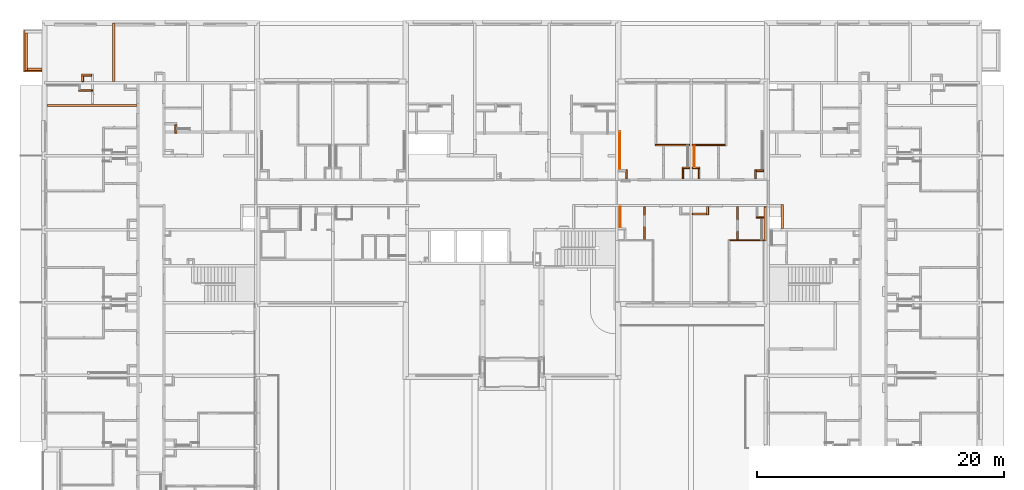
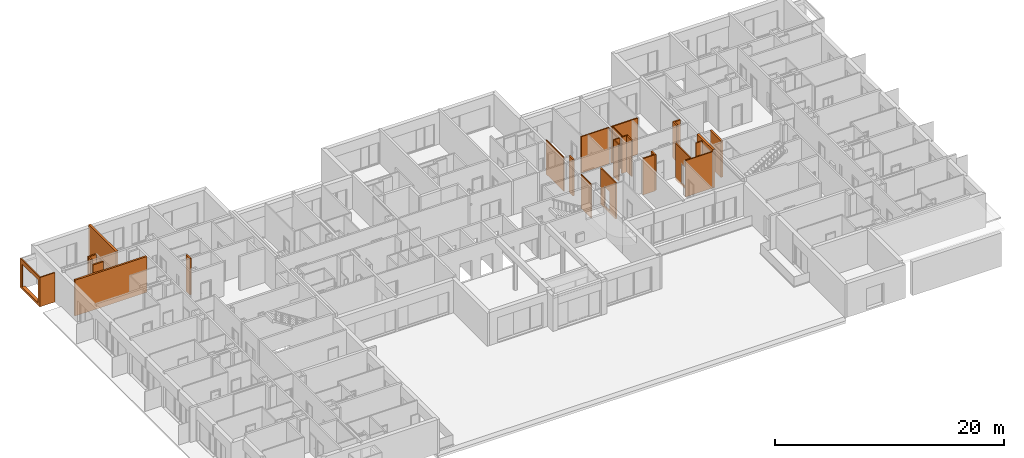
# One storey, part 40 of 46: 28 proxies, 3 openings.
"""IFC2X3 building model written with IfcOpenShell, lengths in millimetres."""

from ifc_helpers import new_model, entity, si_unit, converted_unit, derived_unit, money_unit, direction, frame, origin_with_axes, origin_2d_with_axis, place, context, subcontext, project, spatial, rectangle, extrude, faceted_brep, material, material_list, type_object, element, save


model = new_model("IFC2X3")

# Units and contexts
model_context = context("Model", 3, precision=0.01, world=origin_with_axes(), true_north=direction((0.34421633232, 0.938890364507)))
body_context = subcontext(model_context, "Body", "Model", "MODEL_VIEW")
ifc_project = project(units=[si_unit("LENGTHUNIT", "METRE", prefix="MILLI"), si_unit("AREAUNIT", "SQUARE_METRE"), si_unit("VOLUMEUNIT", "CUBIC_METRE"), converted_unit("PLANEANGLEUNIT", "DEGREE", entity("IfcPlaneAngleMeasure", 0.0174532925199), si_unit("PLANEANGLEUNIT", "RADIAN"), dimensions=[0, 0, 0, 0, 0, 0, 0]), si_unit("SOLIDANGLEUNIT", "STERADIAN"), money_unit("USD"), converted_unit("TIMEUNIT", "Year", entity("IfcTimeMeasure", 31556926.0), si_unit("TIMEUNIT", "SECOND"), dimensions=[0, 0, 1, 0, 0, 0, 0]), si_unit("MASSUNIT", "GRAM", prefix="KILO"), si_unit("THERMODYNAMICTEMPERATUREUNIT", "DEGREE_CELSIUS"), si_unit("LUMINOUSINTENSITYUNIT", "LUMEN"), si_unit("ENERGYUNIT", "JOULE", prefix="MEGA"), derived_unit("THERMALCONDUCTANCEUNIT", [(si_unit("POWERUNIT", "WATT"), 1), (si_unit("LENGTHUNIT", "METRE"), -1), (si_unit("THERMODYNAMICTEMPERATUREUNIT", "KELVIN"), -1)]), derived_unit("SPECIFICHEATCAPACITYUNIT", [(si_unit("ENERGYUNIT", "JOULE"), 1), (si_unit("MASSUNIT", "GRAM", prefix="KILO"), -1), (si_unit("THERMODYNAMICTEMPERATUREUNIT", "KELVIN"), -1)]), derived_unit("MASSDENSITYUNIT", [(si_unit("MASSUNIT", "GRAM", prefix="KILO"), 1), (si_unit("VOLUMEUNIT", "CUBIC_METRE"), -1)])], contexts=[model_context])

# Site, building, storey
site_placement = place(None, origin_with_axes())
site = spatial("IfcSite", under=ifc_project, at=site_placement, Name="USTRONIE MORSKIE", CompositionType="ELEMENT")
building_placement = place(site_placement, origin_with_axes())
building = spatial("IfcBuilding", under=site, at=building_placement, Name="Budynek", CompositionType="ELEMENT")
storey_placement = place(building_placement, origin_with_axes())
storey = spatial("IfcBuildingStorey", under=building, at=storey_placement, Name="PARTER", CompositionType="ELEMENT", Elevation=0.0)

# Proxy, opening
ifc_material_1 = material(Name="Beton konstrukcyjny 01")
ifc_material_2 = material(Name="Płyty styropianowe twarde HIGH-PRIORITY")
ifc_material_3 = material(Name="Membrana przeciwwilgociowa")
ifc_material_list_1 = material_list([ifc_material_1, ifc_material_2, ifc_material_3])
building_element_proxy_type_1 = type_object("IfcBuildingElementProxyType", Name="20+10 GARAŻ 310", PredefinedType="NOTDEFINED")
proxy_1_placement = place(storey_placement, frame((348467.920919, 748851.199036, -230.0), z_axis=(0.0, 0.0, 1.0), x_axis=(0.0, -1.0, 0.0)))
proxy_1 = element("IfcBuildingElementProxy", 1, at=proxy_1_placement, inside=storey, type_object=building_element_proxy_type_1, material=ifc_material_list_1, Name="Œciana-006", context=body_context, shape_type="Brep", body=[
    faceted_brep([(100.0, -100.0, 2775.0), (100.0, 100.0, 2775.0), (100.0, 100.0, 0.0), (100.0, -100.0, 0.0), (3160.0, 100.0, 2775.0), (3160.0, -100.0, 2775.0), (3160.0, 100.0, 0.0), (3160.0, -100.0, 0.0)], [[[0, 1, 2, 3]], [[4, 1, 0, 5]], [[1, 4, 6, 2]], [[6, 7, 3, 2]], [[5, 0, 3, 7]], [[4, 5, 7, 6]]]),
    faceted_brep([(3260.0, -200.0, 0.0), (-100.0, -200.0, 0.0), (-100.0, -100.0, 0.0), (3260.0, -100.0, 0.0), (3260.0, -200.0, 3130.0), (-100.0, -200.0, 3130.0), (-100.0, -100.0, 3130.0), (3260.0, -100.0, 3130.0)], [[[0, 1, 2, 3]], [[4, 5, 1, 0]], [[2, 1, 5, 6]], [[3, 2, 6, 7]], [[3, 7, 4, 0]], [[7, 6, 5, 4]]]),
    faceted_brep([(3270.0, -210.0, 0.0), (-200.0, -210.0, 0.0), (-200.0, -200.0, 0.0), (3270.0, -200.0, 0.0), (3270.0, -210.0, 3130.0), (-200.0, -210.0, 3130.0), (-200.0, -200.0, 3130.0), (3270.0, -200.0, 3130.0)], [[[0, 1, 2, 3]], [[4, 5, 1, 0]], [[2, 1, 5, 6]], [[3, 2, 6, 7]], [[3, 7, 4, 0]], [[7, 6, 5, 4]]]),
])
opening_1_placement = place(proxy_1_placement, frame((1530.0, 0.0, 230.0), z_axis=(0.0, 0.0, 1.0), x_axis=(1.0, 0.0, 0.0)))
element("IfcOpeningElement", 2, at=opening_1_placement, cuts=proxy_1, Name="Okna-005", context=body_context, shape_type="SweptSolid", body=[
    extrude(rectangle(XDim=2860.0, YDim=2450.0, at=origin_2d_with_axis()), frame((0.0, 100.0, 1225.0), z_axis=(0.0, -1.0, 0.0), x_axis=(1.0, 0.0, 0.0)), (0.0, 0.0, -1.0), 310.0),
    extrude(rectangle(XDim=2860.0, YDim=2450.0, at=origin_2d_with_axis()), frame((0.0, 100.0, 1225.0), z_axis=(0.0, 1.0, 0.0), x_axis=(1.0, 0.0, 0.0)), (0.0, 0.0, -1.0), 310.0),
])

# Proxies
ifc_material_list_2 = material_list([ifc_material_3, ifc_material_2, ifc_material_1])
proxy_2_placement = place(storey_placement, frame((349767.920919, 745791.199036, -230.0), z_axis=(0.0, 0.0, 1.0), x_axis=(-1.0, 0.0, 0.0)))
element("IfcBuildingElementProxy", 3, at=proxy_2_placement, inside=storey, type_object=building_element_proxy_type_1, material=ifc_material_list_2, Name="Œciana-006", context=body_context, shape_type="Brep", body=[
    faceted_brep([(1500.0, 210.0, 3130.0), (0.0, 210.0, 3130.0), (0.0, 200.0, 3130.0), (1500.0, 200.0, 3130.0), (1500.0, 210.0, 0.0), (0.0, 210.0, 0.0), (0.0, 200.0, 0.0), (1500.0, 200.0, 0.0)], [[[0, 1, 2, 3]], [[4, 5, 1, 0]], [[2, 1, 5, 6]], [[3, 2, 6, 7]], [[3, 7, 4, 0]], [[7, 6, 5, 4]]]),
    faceted_brep([(1400.0, 200.0, 3130.0), (0.0, 200.0, 3130.0), (0.0, 100.0, 3130.0), (1400.0, 100.0, 3130.0), (1400.0, 200.0, 0.0), (0.0, 200.0, 0.0), (0.0, 100.0, 0.0), (1400.0, 100.0, 0.0)], [[[0, 1, 2, 3]], [[4, 5, 1, 0]], [[2, 1, 5, 6]], [[3, 2, 6, 7]], [[3, 7, 4, 0]], [[7, 6, 5, 4]]]),
    faceted_brep([(1200.0, -100.0, 2775.0), (0.0, -100.0, 2775.0), (0.0, -100.0, 0.0), (1200.0, -100.0, 0.0), (0.0, 100.0, 2775.0), (1200.0, 100.0, 2775.0), (0.0, 100.0, 0.0), (1200.0, 100.0, 0.0)], [[[0, 1, 2, 3]], [[4, 1, 0, 5]], [[1, 4, 6, 2]], [[7, 3, 2, 6]], [[5, 0, 3, 7]], [[4, 5, 7, 6]]]),
])
ifc_material_4 = material(Name="Bloczki silikatowe")
building_element_proxy_type_2 = type_object("IfcBuildingElementProxyType", Name="Bloczki silikatowe 120", PredefinedType="NOTDEFINED")
proxy_3_placement = place(storey_placement, frame((399467.913786, 739651.199937, -230.0), z_axis=(0.0, 0.0, 1.0), x_axis=(1.0, 0.0, 0.0)))
element("IfcBuildingElementProxy", 4, at=proxy_3_placement, inside=storey, type_object=building_element_proxy_type_2, material=ifc_material_4, Name="SW-04", context=body_context, shape_type="Brep", body=[
    faceted_brep([(-60.0, -59.9999999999, 3870.0), (2750.00713284, -59.9999999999, 3870.0), (2750.00713284, 59.9999999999, 3870.0), (-60.0, 59.9999999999, 3870.0), (-60.0, -59.9999999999, 0.0), (2750.00713284, -59.9999999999, -6.72771435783e-06), (2750.00713284, 59.9999999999, -6.72771435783e-06), (-60.0, 59.9999999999, 0.0)], [[[0, 1, 2, 3]], [[4, 5, 1, 0]], [[5, 6, 2, 1]], [[3, 2, 6, 7]], [[3, 7, 4, 0]], [[7, 6, 5, 4]]]),
])
proxy_4_placement = place(storey_placement, frame((402317.920919, 739651.199937, -230.0), z_axis=(0.0, 0.0, 1.0), x_axis=(1.0, 0.0, 0.0)))
element("IfcBuildingElementProxy", 5, at=proxy_4_placement, inside=storey, type_object=building_element_proxy_type_2, material=ifc_material_4, Name="SW-04", context=body_context, shape_type="Brep", body=[
    faceted_brep([(2790.00713284, 59.9999999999, 0.0), (2790.00713284, -59.9999999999, 0.0), (100.0, -59.9999999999, 0.0), (100.0, 59.9999999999, 0.0), (2790.00713284, 59.9999999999, 3870.0), (2790.00713284, -59.9999999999, 3870.0), (100.0, -59.9999999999, 3870.0), (100.0, 59.9999999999, 3870.0)], [[[0, 1, 2, 3]], [[1, 0, 4, 5]], [[1, 5, 6, 2]], [[7, 3, 2, 6]], [[4, 0, 3, 7]], [[5, 4, 7, 6]]]),
])
proxy_5_placement = place(storey_placement, frame((402317.920919, 737751.199937, -230.0), z_axis=(0.0, 0.0, 1.0), x_axis=(1.0, 0.0, 0.0)))
element("IfcBuildingElementProxy", 6, at=proxy_5_placement, inside=storey, type_object=building_element_proxy_type_2, material=ifc_material_4, Name="SW-04", context=body_context, shape_type="Brep", body=[
    faceted_brep([(720.0, 0.0, 3870.0), (720.0, 120.0, 3870.0), (100.0, 120.0, 3870.0), (100.0, 0.0, 3870.0), (720.0, 0.0, 0.0), (720.0, 120.0, 0.0), (100.0, 120.0, 0.0), (100.0, 0.0, 0.0)], [[[0, 1, 2, 3]], [[1, 0, 4, 5]], [[1, 5, 6, 2]], [[7, 3, 2, 6]], [[4, 0, 3, 7]], [[5, 4, 7, 6]]]),
])
proxy_6_placement = place(storey_placement, frame((408317.920919, 731951.199132, -230.0), z_axis=(0.0, 0.0, 1.0), x_axis=(-1.0, 0.0, 0.0)))
element("IfcBuildingElementProxy", 7, at=proxy_6_placement, inside=storey, type_object=building_element_proxy_type_2, material=ifc_material_4, Name="SW-04", context=body_context, shape_type="Brep", body=[
    faceted_brep([(2860.01935038, 59.9999999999, 0.0), (2860.01935038, -59.9999999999, 0.0), (99.9999999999, -59.9999999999, 0.0), (99.9999999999, 59.9999999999, 0.0), (2860.01935038, 59.9999999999, 3870.0), (2860.01935038, -59.9999999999, 3870.0), (99.9999999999, -59.9999999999, 3870.0), (99.9999999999, 59.9999999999, 3870.0)], [[[0, 1, 2, 3]], [[1, 0, 4, 5]], [[1, 5, 6, 2]], [[7, 3, 2, 6]], [[4, 0, 3, 7]], [[5, 4, 7, 6]]]),
])

# Proxy, opening
proxy_7_placement = place(storey_placement, frame((406097.901749, 734751.199036, -230.0), z_axis=(0.0, 0.0, 1.0), x_axis=(0.0, -1.0, 0.0)))
proxy_7 = element("IfcBuildingElementProxy", 8, at=proxy_7_placement, inside=storey, type_object=building_element_proxy_type_2, material=ifc_material_4, Name="SW-04", context=body_context, shape_type="Brep", body=[
    faceted_brep([(2739.99990367, -60.0, 3870.0), (2739.99990367, 60.0, 3870.0), (80.0, 60.0, 3870.0), (80.0, -60.0, 3870.0), (2739.99990367, -60.0, 0.0), (2739.99990367, 60.0, 0.0), (80.0, 60.0, 0.0), (80.0, -60.0, 0.0)], [[[0, 1, 2, 3]], [[1, 0, 4, 5]], [[1, 5, 6, 2]], [[7, 3, 2, 6]], [[4, 0, 3, 7]], [[5, 4, 7, 6]]]),
])
opening_2_placement = place(proxy_7_placement, frame((1599.96669926, 0.0, 230.0), z_axis=(0.0, 0.0, 1.0), x_axis=(1.0, 0.0, 0.0)))
element("IfcOpeningElement", 9, at=opening_2_placement, cuts=proxy_7, Name="Dw.4", context=body_context, shape_type="SweptSolid", body=[
    extrude(rectangle(XDim=920.0, YDim=2070.0, at=origin_2d_with_axis()), frame((0.0, 120.0, 1035.0), z_axis=(0.0, -1.0, 0.0), x_axis=(-1.0, 0.0, 0.0)), (0.0, 0.0, 1.0), 360.0),
    extrude(rectangle(XDim=994.0, YDim=2177.0, at=origin_2d_with_axis()), frame((0.0, 60.0, 1088.5), z_axis=(0.0, -1.0, 0.0), x_axis=(-1.0, 0.0, 0.0)), (0.0, 0.0, -1.0), 120.0),
    extrude(rectangle(XDim=994.0, YDim=2177.0, at=origin_2d_with_axis()), frame((0.0, -60.0, 1088.5), z_axis=(0.0, 1.0, 0.0), x_axis=(-1.0, 0.0, 0.0)), (0.0, 0.0, -1.0), 120.0),
])

proxy_8_placement = place(storey_placement, frame((398537.940089, 731951.199132, -230.0), z_axis=(0.0, 0.0, 1.0), x_axis=(0.0, 1.0, 0.0)))
proxy_8 = element("IfcBuildingElementProxy", 10, at=proxy_8_placement, inside=storey, type_object=building_element_proxy_type_2, material=ifc_material_4, Name="SW-04", context=body_context, shape_type="Brep", body=[
    faceted_brep([(2719.99990367, -60.0, 3870.0), (2719.99990367, 60.0, 3870.0), (59.9999999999, 60.0, 3870.0), (59.9999999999, -60.0, 3870.0), (2719.99990367, -60.0, 0.0), (2719.99990367, 60.0, 0.0), (59.9999999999, 60.0, 0.0), (59.9999999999, -60.0, 0.0)], [[[0, 1, 2, 3]], [[1, 0, 4, 5]], [[1, 5, 6, 2]], [[7, 3, 2, 6]], [[4, 0, 3, 7]], [[5, 4, 7, 6]]]),
])
opening_3_placement = place(proxy_8_placement, frame((1559.96669926, 0.0, 230.0), z_axis=(0.0, 0.0, 1.0), x_axis=(1.0, 0.0, 0.0)))
element("IfcOpeningElement", 11, at=opening_3_placement, cuts=proxy_8, Name="Dw.4", context=body_context, shape_type="SweptSolid", body=[
    extrude(rectangle(XDim=920.0, YDim=2070.0, at=origin_2d_with_axis()), frame((0.0, 120.0, 1035.0), z_axis=(0.0, 1.0, 0.0), x_axis=(1.0, 0.0, 0.0)), (0.0, 0.0, -1.0), 360.0),
    extrude(rectangle(XDim=994.0, YDim=2177.0, at=origin_2d_with_axis()), frame((0.0, 60.0, 1088.5), z_axis=(0.0, 1.0, 0.0), x_axis=(1.0, 0.0, 0.0)), (0.0, 0.0, 1.0), 120.0),
    extrude(rectangle(XDim=994.0, YDim=2177.0, at=origin_2d_with_axis()), frame((0.0, -60.0, 1088.5), z_axis=(0.0, -1.0, 0.0), x_axis=(1.0, 0.0, 0.0)), (0.0, 0.0, 1.0), 120.0),
])

# Proxies
proxy_9_placement = place(storey_placement, frame((402317.920919, 737751.199937, -230.0), z_axis=(0.0, 0.0, 1.0), x_axis=(-1.0, 0.0, 0.0)))
element("IfcBuildingElementProxy", 12, at=proxy_9_placement, inside=storey, type_object=building_element_proxy_type_2, material=ifc_material_4, Name="SW-04", context=body_context, shape_type="Brep", body=[
    faceted_brep([(720.0, 0.0, 3870.0), (100.0, 0.0, 3870.0), (100.0, -120.0, 3870.0), (720.0, -120.0, 3870.0), (720.0, 0.0, 0.0), (100.0, 0.0, -6.72771435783e-06), (100.0, -120.0, -6.72771435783e-06), (720.0, -120.0, 0.0)], [[[0, 1, 2, 3]], [[4, 5, 1, 0]], [[5, 6, 2, 1]], [[3, 2, 6, 7]], [[0, 3, 7, 4]], [[7, 6, 5, 4]]]),
])
proxy_10_placement = place(storey_placement, frame((401717.920919, 737751.199937, -230.0), z_axis=(0.0, 0.0, 1.0), x_axis=(0.0, -1.0, 0.0)))
element("IfcBuildingElementProxy", 13, at=proxy_10_placement, inside=storey, type_object=building_element_proxy_type_2, material=ifc_material_4, Name="SW-04", context=body_context, shape_type="Brep", body=[
    faceted_brep([(820.00090117, 0.0, 0.0), (820.00090117, -120.0, 0.0), (0.0, -120.0, 0.0), (0.0, 0.0, 0.0), (820.00090117, 0.0, 3870.0), (820.00090117, -120.0, 3870.0), (0.0, -120.0, 3870.0), (0.0, 0.0, 3870.0)], [[[0, 1, 2, 3]], [[1, 0, 4, 5]], [[1, 5, 6, 2]], [[7, 3, 2, 6]], [[4, 0, 3, 7]], [[5, 4, 7, 6]]]),
])
proxy_11_placement = place(storey_placement, frame((408317.920919, 733851.199598, -180.0), z_axis=(0.0, 0.0, 1.0), x_axis=(-1.0, 0.0, 0.0)))
element("IfcBuildingElementProxy", 14, at=proxy_11_placement, inside=storey, type_object=building_element_proxy_type_2, material=ifc_material_4, Name="SW-04", context=body_context, shape_type="Brep", body=[
    faceted_brep([(719.987641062, 120.0, 0.0), (719.987641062, 0.0, 0.0), (100.0, 0.0, 0.0), (100.0, 120.0, 0.0), (719.987641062, 120.0, 3820.0), (719.987641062, 0.0, 3820.0), (100.0, 0.0, 3820.0), (100.0, 120.0, 3820.0)], [[[0, 1, 2, 3]], [[1, 0, 4, 5]], [[1, 5, 6, 2]], [[7, 3, 2, 6]], [[4, 0, 3, 7]], [[5, 4, 7, 6]]]),
])
proxy_12_placement = place(storey_placement, frame((402917.920919, 737751.199937, -230.0), z_axis=(0.0, 0.0, 1.0), x_axis=(0.0, -1.0, 0.0)))
element("IfcBuildingElementProxy", 15, at=proxy_12_placement, inside=storey, type_object=building_element_proxy_type_2, material=ifc_material_4, Name="SW-04", context=body_context, shape_type="Brep", body=[
    faceted_brep([(820.00090117, 0.0, 3870.0), (820.00090117, 120.0, 3870.0), (0.0, 120.0, 3870.0), (0.0, 0.0, 3870.0), (820.00090117, 0.0, 0.0), (820.00090117, 120.0, 0.0), (0.0, 120.0, 0.0), (0.0, 0.0, 0.0)], [[[0, 1, 2, 3]], [[1, 0, 4, 5]], [[1, 5, 6, 2]], [[7, 3, 2, 6]], [[4, 0, 3, 7]], [[5, 4, 7, 6]]]),
])
building_element_proxy_type_3 = type_object("IfcBuildingElementProxyType", Name="Bloczki silikatowe 180", PredefinedType="NOTDEFINED")
proxy_13_placement = place(storey_placement, frame((350067.920919, 742871.199128, -180.0), z_axis=(0.0, 0.0, 1.0), x_axis=(1.0, 0.0, 0.0)))
element("IfcBuildingElementProxy", 16, at=proxy_13_placement, inside=storey, type_object=building_element_proxy_type_3, material=ifc_material_4, Name="SW-02", context=body_context, shape_type="Brep", body=[
    faceted_brep([(7370.0, 90.0, 0.0), (100.0, 90.0, 0.0), (100.0, 90.0, 3820.0), (7370.0, 90.0, 3820.0), (7370.0, -90.0, 0.0), (100.0, -90.0, 0.0), (100.0, -90.0, 3820.0), (7370.0, -90.0, 3820.0)], [[[0, 1, 2, 3]], [[4, 5, 1, 0]], [[2, 1, 5, 6]], [[3, 2, 6, 7]], [[4, 0, 3, 7]], [[6, 5, 4, 7]]]),
])
ifc_material_5 = material(Name="Płyta GK")
ifc_material_6 = material(Name="-Pustka powietrzna")
ifc_material_list_3 = material_list([ifc_material_5, ifc_material_5, ifc_material_6])
building_element_proxy_type_4 = type_object("IfcBuildingElementProxyType", Name="330-SD GK 2-warstwy 75", PredefinedType="NOTDEFINED")
proxy_14_placement = place(storey_placement, frame((402562.908566, 739651.199937, -180.0), z_axis=(0.0, 0.0, 1.0), x_axis=(0.0, -1.0, 0.0)))
element("IfcBuildingElementProxy", 17, at=proxy_14_placement, inside=storey, type_object=building_element_proxy_type_4, material=ifc_material_list_3, Name="Ściana-009", context=body_context, shape_type="Brep", body=[
    faceted_brep([(1780.0, 50.0, 165.0), (59.9999999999, 50.0, 165.0), (59.9999999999, 50.0, 3820.0), (1780.0, 50.0, 3820.0), (59.9999999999, 37.5, 165.0), (1780.0, 37.5, 165.0), (59.9999999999, 37.5, 3820.0), (1780.0, 37.5, 3820.0)], [[[0, 1, 2, 3]], [[4, 1, 0, 5]], [[1, 4, 6, 2]], [[7, 3, 2, 6]], [[5, 0, 3, 7]], [[4, 5, 7, 6]]]),
    faceted_brep([(1780.0, 37.5, 165.0), (59.9999999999, 37.5, 165.0), (59.9999999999, 37.5, 3820.0), (1780.0, 37.5, 3820.0), (59.9999999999, 25.0, 165.0), (1780.0, 25.0, 165.0), (59.9999999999, 25.0, 3820.0), (1780.0, 25.0, 3820.0)], [[[0, 1, 2, 3]], [[4, 1, 0, 5]], [[1, 4, 6, 2]], [[7, 3, 2, 6]], [[5, 0, 3, 7]], [[4, 5, 7, 6]]]),
    faceted_brep([(1780.0, 25.0, 180.0), (59.9999999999, 25.0, 180.0), (59.9999999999, 25.0, 3820.0), (1780.0, 25.0, 3820.0), (59.9999999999, -25.0, 180.0), (1780.0, -25.0, 180.0), (59.9999999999, -25.0, 3820.0), (1780.0, -25.0, 3820.0)], [[[0, 1, 2, 3]], [[4, 1, 0, 5]], [[1, 4, 6, 2]], [[7, 3, 2, 6]], [[5, 0, 3, 7]], [[4, 5, 7, 6]]]),
])
ifc_material_list_4 = material_list([ifc_material_6, ifc_material_5, ifc_material_5])
proxy_15_placement = place(storey_placement, frame((396547.898799, 737501.202288, -180.0), z_axis=(0.0, 0.0, 1.0), x_axis=(0.0, 1.0, 0.0)))
element("IfcBuildingElementProxy", 18, at=proxy_15_placement, inside=storey, type_object=building_element_proxy_type_4, material=ifc_material_list_4, Name="Ściana-009", context=body_context, shape_type="Brep", body=[
    faceted_brep([(150.0, 0.0, 180.0), (3220.0, 0.0, 180.0), (3220.0, 0.0, 3820.0), (150.0, 0.0, 3820.0), (3220.0, 50.0, 180.0), (150.0, 50.0, 180.0), (3220.0, 50.0, 3820.0), (150.0, 50.0, 3820.0)], [[[0, 1, 2, 3]], [[4, 1, 0, 5]], [[1, 4, 6, 2]], [[6, 7, 3, 2]], [[5, 0, 3, 7]], [[4, 5, 7, 6]]]),
    faceted_brep([(150.0, -12.5, 165.0), (3270.0, -12.5, 165.0), (3270.0, -12.5, 3820.0), (150.0, -12.5, 3820.0), (3270.0, 0.0, 165.0), (150.0, 0.0, 165.0), (3270.0, 0.0, 3820.0), (150.0, 0.0, 3820.0)], [[[0, 1, 2, 3]], [[4, 1, 0, 5]], [[1, 4, 6, 2]], [[6, 7, 3, 2]], [[5, 0, 3, 7]], [[4, 5, 7, 6]]]),
    faceted_brep([(150.0, -25.0, 165.0), (3282.5, -25.0, 165.0), (3282.5, -25.0, 3820.0), (150.0, -25.0, 3820.0), (3282.5, -12.5, 165.0), (150.0, -12.5, 165.0), (3282.5, -12.5, 3820.0), (150.0, -12.5, 3820.0)], [[[0, 1, 2, 3]], [[4, 1, 0, 5]], [[1, 4, 6, 2]], [[6, 7, 3, 2]], [[5, 0, 3, 7]], [[4, 5, 7, 6]]]),
])
proxy_16_placement = place(storey_placement, frame((396562.908566, 734751.199036, -180.0), z_axis=(0.0, 0.0, 1.0), x_axis=(0.0, -1.0, 0.0)))
element("IfcBuildingElementProxy", 19, at=proxy_16_placement, inside=storey, type_object=building_element_proxy_type_4, material=ifc_material_list_3, Name="Ściana-009", context=body_context, shape_type="Brep", body=[
    faceted_brep([(1819.99446814, 50.0, 165.0), (80.0, 50.0, 165.0), (80.0, 50.0, 3820.0), (1819.99446814, 50.0, 3820.0), (80.0, 37.5, 165.0), (1819.99446814, 37.5, 165.0), (80.0, 37.5, 3820.0), (1819.99446814, 37.5, 3820.0)], [[[0, 1, 2, 3]], [[4, 1, 0, 5]], [[1, 4, 6, 2]], [[7, 3, 2, 6]], [[5, 0, 3, 7]], [[4, 5, 7, 6]]]),
    faceted_brep([(1819.99446814, 37.5, 165.0), (80.0, 37.5, 165.0), (80.0, 37.5, 3820.0), (1819.99446814, 37.5, 3820.0), (80.0, 25.0, 165.0), (1819.99446814, 25.0, 165.0), (80.0, 25.0, 3820.0), (1819.99446814, 25.0, 3820.0)], [[[0, 1, 2, 3]], [[4, 1, 0, 5]], [[1, 4, 6, 2]], [[7, 3, 2, 6]], [[5, 0, 3, 7]], [[4, 5, 7, 6]]]),
    faceted_brep([(1819.99446814, 25.0, 180.0), (80.0, 25.0, 180.0), (80.0, 25.0, 3820.0), (1819.99446814, 25.0, 3820.0), (80.0, -25.0, 180.0), (1819.99446814, -25.0, 180.0), (80.0, -25.0, 3820.0), (1819.99446814, -25.0, 3820.0)], [[[0, 1, 2, 3]], [[4, 1, 0, 5]], [[1, 4, 6, 2]], [[7, 3, 2, 6]], [[5, 0, 3, 7]], [[4, 5, 7, 6]]]),
])
building_element_proxy_type_5 = type_object("IfcBuildingElementProxyType", Name="Bloczki silikatowe 150", PredefinedType="NOTDEFINED")
proxy_17_placement = place(storey_placement, frame((407617.937954, 737501.202288, -160.0), z_axis=(0.0, 0.0, 1.0), x_axis=(1.0, 0.0, 0.0)))
element("IfcBuildingElementProxy", 20, at=proxy_17_placement, inside=storey, type_object=building_element_proxy_type_5, material=ifc_material_4, Name="SW-03", context=body_context, shape_type="Brep", body=[
    faceted_brep([(599.982965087, 150.0, 0.0), (599.982965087, 0.0, 0.0), (0.0, 0.0, 0.0), (0.00467226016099, 150.0, 0.0), (599.982965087, 150.0, 3800.0), (599.982965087, 0.0, 3800.0), (0.0, 0.0, 3800.0), (0.00467226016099, 150.0, 3800.0)], [[[0, 1, 2, 3]], [[1, 0, 4, 5]], [[1, 5, 6, 2]], [[7, 3, 2, 6]], [[4, 0, 3, 7]], [[5, 4, 7, 6]]]),
])
proxy_18_placement = place(storey_placement, frame((407617.917707, 736851.199036, -230.0), z_axis=(0.0, 0.0, 1.0), x_axis=(3.11484009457e-05, 0.999999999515, 0.0)))
element("IfcBuildingElementProxy", 21, at=proxy_18_placement, inside=storey, type_object=building_element_proxy_type_5, material=ifc_material_4, Name="SW-03", context=body_context, shape_type="Brep", body=[
    faceted_brep([(650.00325224, 0.0, 70.0), (800.003252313, 0.0, 70.0), (800.003252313, 0.0, 3870.0), (80.0000000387, 0.0, 3870.0), (80.0000000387, 0.0, 0.0), (650.00325224, 0.0, 0.0), (650.00325224, 150.0, 70.0), (799.998580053, 150.0, 70.0), (799.998580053, 150.0, 3870.0), (79.9953277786, 150.0, 3870.0), (79.9953277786, 150.0, 0.0), (650.00325224, 150.0, 0.0)], [[[0, 1, 2, 3, 4, 5]], [[6, 7, 1, 0]], [[7, 8, 2, 1]], [[3, 2, 8, 9]], [[4, 3, 9, 10]], [[10, 11, 5, 4]], [[6, 0, 5, 11]], [[9, 8, 7, 6, 11, 10]]]),
])
proxy_19_placement = place(storey_placement, frame((360592.922714, 740711.179476, -230.0), z_axis=(0.0, 0.0, 1.0), x_axis=(0.0, 1.0, 0.0)))
element("IfcBuildingElementProxy", 22, at=proxy_19_placement, inside=storey, type_object=building_element_proxy_type_5, material=ifc_material_4, Name="SW-04", context=body_context, shape_type="Brep", body=[
    faceted_brep([(590.00090117, -75.0, 3870.0), (590.00090117, 75.0, 3870.0), (-90.0, 75.0, 3870.0), (-90.0, -75.0, 3870.0), (590.00090117, -75.0, 0.0), (590.00090117, 75.0, 0.0), (-90.0, 75.0, 0.0), (-90.0, -75.0, 0.0)], [[[0, 1, 2, 3]], [[1, 0, 4, 5]], [[1, 5, 6, 2]], [[7, 3, 2, 6]], [[4, 0, 3, 7]], [[5, 4, 7, 6]]]),
])
proxy_20_placement = place(storey_placement, frame((353842.920919, 744091.199036, -230.0), z_axis=(0.0, 0.0, 1.0), x_axis=(-1.0, 0.0, 0.0)))
element("IfcBuildingElementProxy", 23, at=proxy_20_placement, inside=storey, type_object=building_element_proxy_type_5, material=ifc_material_4, Name="SW-04", context=body_context, shape_type="Brep", body=[
    faceted_brep([(1125.0, -59.9999999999, 3870.0), (75.0, -59.9999999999, 3870.0), (75.0, -59.9999999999, 50.0), (0.0, -59.9999999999, 50.0), (0.0, -59.9999999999, 0.0), (1125.0, -59.9999999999, 0.0), (1125.0, 90.0, 3870.0), (75.0, 90.0, 3870.0), (75.0, 90.0, 50.0), (0.0, 90.0, 50.0), (0.0, 90.0, 0.0), (1125.0, 90.0, 0.0)], [[[0, 1, 2, 3, 4, 5]], [[6, 7, 1, 0]], [[8, 2, 1, 7]], [[8, 9, 3, 2]], [[4, 3, 9, 10]], [[11, 5, 4, 10]], [[11, 6, 0, 5]], [[9, 8, 7, 6, 11, 10]]]),
])
proxy_21_placement = place(storey_placement, frame((403587.872717, 734751.199036, -180.0), z_axis=(0.0, 0.0, 1.0), x_axis=(0.0, -1.0, 0.0)))
element("IfcBuildingElementProxy", 24, at=proxy_21_placement, inside=storey, type_object=building_element_proxy_type_5, material=ifc_material_4, Name="SW-03", context=body_context, shape_type="Brep", body=[
    faceted_brep([(749.997151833, 0.0, 3820.0), (749.997151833, 150.0, 3820.0), (80.0, 150.0, 3820.0), (80.0, 0.0, 3820.0), (749.997151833, 0.0, 0.0), (749.997151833, 150.0, 0.0), (80.0, 150.0, 0.0), (80.0, 0.0, 0.0)], [[[0, 1, 2, 3]], [[1, 0, 4, 5]], [[1, 5, 6, 2]], [[7, 3, 2, 6]], [[4, 0, 3, 7]], [[5, 4, 7, 6]]]),
])
proxy_22_placement = place(storey_placement, frame((397017.904099, 736851.199036, -230.0), z_axis=(0.0, 0.0, 1.0), x_axis=(0.0, 1.0, 0.0)))
element("IfcBuildingElementProxy", 25, at=proxy_22_placement, inside=storey, type_object=building_element_proxy_type_5, material=ifc_material_4, Name="SW-03", context=body_context, shape_type="Brep", body=[
    faceted_brep([(650.003251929, -150.0, 70.0), (800.003251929, -150.0, 70.0), (800.003251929, -150.0, 3870.0), (80.0, -150.0, 3870.0), (80.0, -150.0, 0.0), (650.003251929, -150.0, 0.0), (650.003251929, 0.0, 70.0), (800.003251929, 0.0, 70.0), (800.003251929, 0.0, 3870.0), (80.0, 0.0, 3870.0), (80.0, 0.0, 0.0), (650.003251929, 0.0, 0.0)], [[[0, 1, 2, 3, 4, 5]], [[6, 7, 1, 0]], [[7, 8, 2, 1]], [[3, 2, 8, 9]], [[4, 3, 9, 10]], [[10, 11, 5, 4]], [[6, 0, 5, 11]], [[9, 8, 7, 6, 11, 10]]]),
])
proxy_23_placement = place(storey_placement, frame((403587.872717, 734151.201884, -230.0), z_axis=(0.0, 0.0, 1.0), x_axis=(-1.0, 0.0, 0.0)))
element("IfcBuildingElementProxy", 26, at=proxy_23_placement, inside=storey, type_object=building_element_proxy_type_5, material=ifc_material_4, Name="SW-03", context=body_context, shape_type="Brep", body=[
    faceted_brep([(1169.9517982, 150.0, 3869.99994516), (0.0, 150.0, 3870.0), (0.0, 0.0, 3870.0), (1169.9517982, 0.0, 3869.99994516), (0.0, 150.0, 0.0), (0.0, 150.0, 50.0), (1169.9517982, 150.0, 0.0), (0.0, 0.0, 50.0), (0.0, 0.0, 0.0), (1169.9517982, 0.0, 0.0)], [[[0, 1, 2, 3]], [[4, 5, 1, 0, 6]], [[5, 7, 2, 1]], [[3, 2, 7, 8, 9]], [[6, 0, 3, 9]], [[8, 7, 5, 4]], [[4, 6, 9, 8]]]),
])
proxy_24_placement = place(storey_placement, frame((353842.920919, 745311.199036, -160.0), z_axis=(0.0, 0.0, 1.0), x_axis=(-1.0, 0.0, 0.0)))
element("IfcBuildingElementProxy", 27, at=proxy_24_placement, inside=storey, type_object=building_element_proxy_type_5, material=ifc_material_4, Name="Œciana-007", context=body_context, shape_type="Brep", body=[
    faceted_brep([(875.0, -90.0, 3800.0), (875.0, 59.9999999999, 3800.0), (75.0, 59.9999999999, 3800.0), (75.0, -90.0, 3800.0), (875.0, -90.0, 0.0), (875.0, 59.9999999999, 0.0), (75.0, 59.9999999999, 0.0), (75.0, -90.0, 0.0)], [[[0, 1, 2, 3]], [[1, 0, 4, 5]], [[1, 5, 6, 2]], [[7, 3, 2, 6]], [[4, 0, 3, 7]], [[5, 4, 7, 6]]]),
])
proxy_25_placement = place(storey_placement, frame((353057.920919, 745311.199036, -160.0), z_axis=(0.0, 0.0, 1.0), x_axis=(0.0, -1.0, 0.0)))
element("IfcBuildingElementProxy", 28, at=proxy_25_placement, inside=storey, type_object=building_element_proxy_type_5, material=ifc_material_4, Name="Œciana-007", context=body_context, shape_type="Brep", body=[
    faceted_brep([(510.0, -90.0, 3800.0), (510.0, 60.0, 3800.0), (59.9999999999, 60.0, 3800.0), (59.9999999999, -90.0, 3800.0), (510.0, -90.0, 0.0), (510.0, 60.0, 0.0), (59.9999999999, 60.0, 0.0), (59.9999999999, -90.0, 0.0)], [[[0, 1, 2, 3]], [[1, 0, 4, 5]], [[1, 5, 6, 2]], [[7, 3, 2, 6]], [[4, 0, 3, 7]], [[5, 4, 7, 6]]]),
])
ifc_material_7 = material(Name="Beton konstrukcyjny B25")
building_element_proxy_type_6 = type_object("IfcBuildingElementProxyType", Name="Beton konstrukcyjny B25 200", PredefinedType="NOTDEFINED")
proxy_26_placement = place(storey_placement, frame((355567.920919, 749451.199036, -230.0), z_axis=(0.0, 0.0, 1.0), x_axis=(0.0, -1.0, 0.0)))
element("IfcBuildingElementProxy", 29, at=proxy_26_placement, inside=storey, type_object=building_element_proxy_type_6, material=ifc_material_7, Name="SW-01", context=body_context, shape_type="Brep", body=[
    faceted_brep([(-100.0, 100.0, 0.0), (-100.0, 100.0, 3870.0), (4650.0, 100.0, 3870.0), (4650.0, 100.0, 0.0), (-100.0, -100.0, 0.0), (-100.0, -100.0, 3870.0), (4650.0, -100.0, 3870.0), (4650.0, -100.0, 0.0)], [[[0, 1, 2, 3]], [[4, 5, 1, 0]], [[2, 1, 5, 6]], [[7, 3, 2, 6]], [[7, 4, 0, 3]], [[6, 5, 4, 7]]]),
])
proxy_27_placement = place(storey_placement, frame((408317.920919, 731891.199132, -230.0), z_axis=(0.0, 0.0, 1.0), x_axis=(0.0, 1.0, 0.0)))
element("IfcBuildingElementProxy", 30, at=proxy_27_placement, inside=storey, type_object=building_element_proxy_type_6, material=ifc_material_7, Name="SW-01", context=body_context, shape_type="Brep", body=[
    faceted_brep([(2779.99990367, 100.0, 0.0), (2779.99990367, 100.0, 3870.0), (2779.99990367, -100.0, 3870.0), (2779.99990367, -100.0, 0.0), (2760.00015498, 100.0, 4070.0), (2760.00015498, 100.0, 3870.0), (0.0, 100.0, 0.0), (0.0, 100.0, 4070.0), (2760.00015498, -100.0, 3870.0), (2760.00015498, -100.0, 4070.0), (0.0, -100.0, 4070.0), (0.0, -100.0, 0.0)], [[[0, 1, 2, 3]], [[4, 5, 1, 0, 6, 7]], [[5, 8, 2, 1]], [[2, 8, 9, 10, 11, 3]], [[11, 6, 0, 3]], [[5, 4, 9, 8]], [[10, 7, 6, 11]], [[10, 9, 4, 7]]]),
])
proxy_28_placement = place(storey_placement, frame((409717.916167, 734741.199036, -230.0), z_axis=(0.0, 0.0, 1.0), x_axis=(5.0427897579e-06, -0.999999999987, 0.0)))
element("IfcBuildingElementProxy", 31, at=proxy_28_placement, inside=storey, type_object=building_element_proxy_type_6, material=ifc_material_7, Name="SW-01", context=body_context, shape_type="Brep", body=[
    faceted_brep([(1839.99949574, -100.0, 3870.0), (1840.0005043, 99.9999999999, 3870.0), (-89.9994957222, 99.9999999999, 3870.0), (-90.0005042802, -100.0, 3870.0), (1839.99949574, -100.0, 0.0), (1840.0005043, 99.9999999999, 0.0), (-89.9994957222, 99.9999999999, 0.0), (-90.0005042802, -100.0, 0.0)], [[[0, 1, 2, 3]], [[1, 0, 4, 5]], [[1, 5, 6, 2]], [[7, 3, 2, 6]], [[4, 0, 3, 7]], [[5, 4, 7, 6]]]),
])

save(model, "model.ifc")
